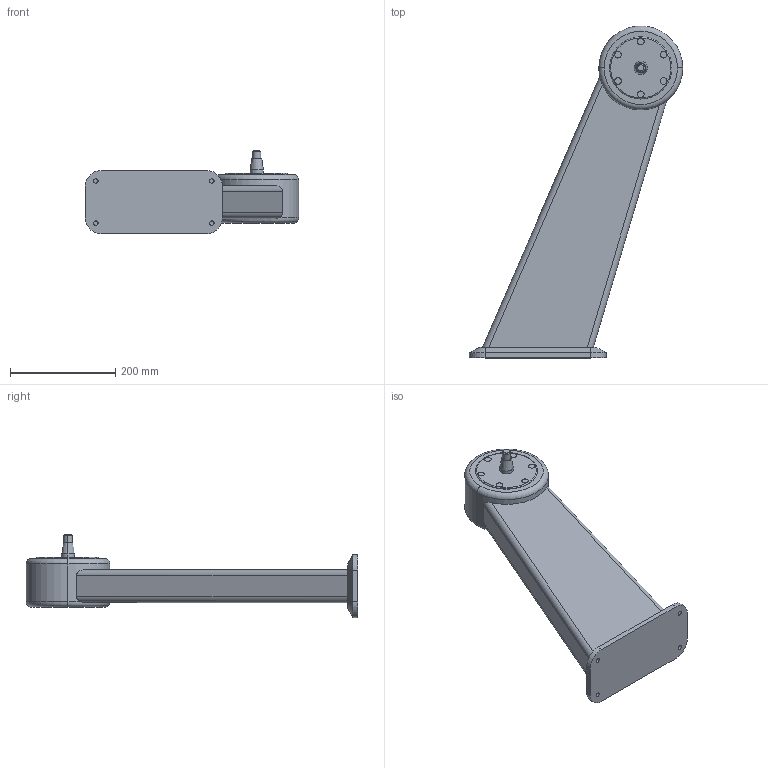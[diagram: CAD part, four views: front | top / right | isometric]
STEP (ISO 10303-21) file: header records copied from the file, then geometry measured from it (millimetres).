
FILE_DESCRIPTION (( 'STEP AP214' ), '1' );
FILE_NAME ('WP700_H550_-20.STEP', '2014-08-14T09:46:38', ( '' ), ( '' ), 'SwSTEP 2.0', 'SolidWorks 2014', '' );
FILE_SCHEMA (( 'AUTOMOTIVE_DESIGN' ));
Length unit declared in the file: millimetre
Products named in the file (1): WP700_H550_-20
Bounding box: 404.69 x 629.5 x 158.3 mm (x, y, z)
Volume: 7537423.9 mm3; surface area: 354346.4 mm2
Topology: 1 solids, 1 shells, 79 faces, 171 edges, 108 vertices
Faces by surface type: cylinder 36, plane 29, cone 8, torus 6
Entity records: 2294 total; most frequent: CARTESIAN_POINT 475, DIRECTION 408, ORIENTED_EDGE 342, EDGE_CURVE 171, AXIS2_PLACEMENT_3D 167, VERTEX_POINT 108, EDGE_LOOP 93, CIRCLE 87
